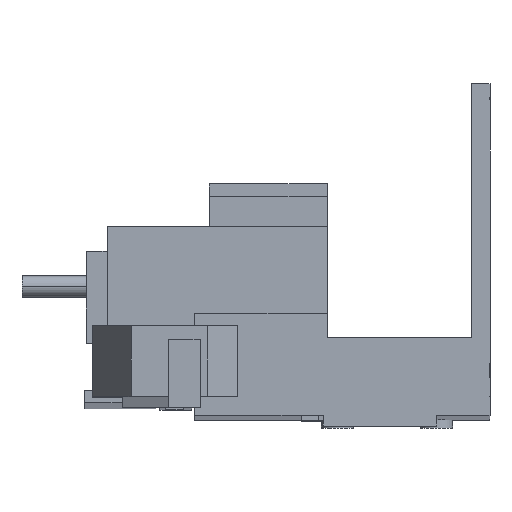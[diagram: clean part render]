
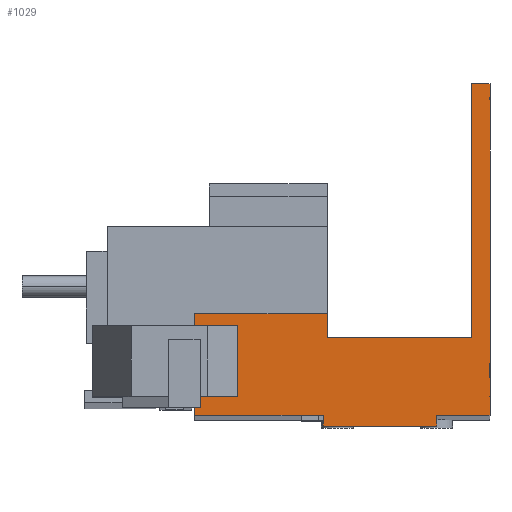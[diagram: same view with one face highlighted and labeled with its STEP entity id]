
A CAD part, front view. The second image highlights one B-rep face of the part: STEP entity #1029.
In plain terms, the highlighted planar face has unit normal (0, -1, 0.002).
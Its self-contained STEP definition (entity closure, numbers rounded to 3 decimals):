
#3 = LINE ( 'NONE', #4710, #153 ) ;
#7 = LINE ( 'NONE', #4774, #55 ) ;
#55 = VECTOR ( 'NONE', #4762, 1000. ) ;
#106 = CARTESIAN_POINT ( 'NONE',  ( 0., -32.978, 10.519 ) ) ;
#125 = CARTESIAN_POINT ( 'NONE',  ( -23.5, -33.076, -36.181 ) ) ;
#153 = VECTOR ( 'NONE', #4666, 1000. ) ;
#170 = CARTESIAN_POINT ( 'NONE',  ( -22.92, -33.046, -21.831 ) ) ;
#175 = CARTESIAN_POINT ( 'NONE',  ( -41.6, -33.076, -36.181 ) ) ;
#177 = CARTESIAN_POINT ( 'NONE',  ( -22.92, -33.053, -25.181 ) ) ;
#184 = CARTESIAN_POINT ( 'NONE',  ( -2.55, -32.978, 10.519 ) ) ;
#193 = CARTESIAN_POINT ( 'NONE',  ( -7.5, -33.079, -37.681 ) ) ;
#221 = CARTESIAN_POINT ( 'NONE',  ( -23.5, -33.079, -37.681 ) ) ;
#223 = CARTESIAN_POINT ( 'NONE',  ( -2.55, -33.053, -25.181 ) ) ;
#247 = CARTESIAN_POINT ( 'NONE',  ( -7.5, -33.076, -36.181 ) ) ;
#265 = CARTESIAN_POINT ( 'NONE',  ( 0., -33.076, -36.181 ) ) ;
#801 = CARTESIAN_POINT ( 'NONE',  ( -41.6, -33.046, -21.831 ) ) ;
#858 = VECTOR ( 'NONE', #4403, 1000. ) ;
#860 = VECTOR ( 'NONE', #4404, 1000. ) ;
#862 = VECTOR ( 'NONE', #4407, 1000. ) ;
#863 = LINE ( 'NONE', #4406, #860 ) ;
#864 = VECTOR ( 'NONE', #4410, 1000. ) ;
#865 = LINE ( 'NONE', #4409, #862 ) ;
#867 = LINE ( 'NONE', #4411, #864 ) ;
#874 = VECTOR ( 'NONE', #4423, 1000. ) ;
#877 = LINE ( 'NONE', #4424, #874 ) ;
#886 = LINE ( 'NONE', #4417, #858 ) ;
#887 = VECTOR ( 'NONE', #4488, 1000. ) ;
#890 = LINE ( 'NONE', #4507, #887 ) ;
#956 = FACE_OUTER_BOUND ( 'NONE', #5602, .T. ) ;
#1029 = ADVANCED_FACE ( 'NONE', ( #956 ), #3603, .F. ) ;
#1226 = DIRECTION ( 'NONE',  ( 0., -0.002, -1. ) ) ;
#1263 = CARTESIAN_POINT ( 'NONE',  ( -41.6, -33.076, -36.181 ) ) ;
#1967 = VECTOR ( 'NONE', #4810, 1000. ) ;
#1980 = LINE ( 'NONE', #4738, #1967 ) ;
#2130 = VECTOR ( 'NONE', #1226, 1000. ) ;
#2154 = LINE ( 'NONE', #1263, #2130 ) ;
#2257 = LINE ( 'NONE', #4799, #2263 ) ;
#2263 = VECTOR ( 'NONE', #4510, 1000. ) ;
#2281 = VECTOR ( 'NONE', #4811, 1000. ) ;
#2294 = LINE ( 'NONE', #4757, #2281 ) ;
#2340 = ORIENTED_EDGE ( 'NONE', *, *, #4034, .T. ) ;
#2349 = ORIENTED_EDGE ( 'NONE', *, *, #3989, .T. ) ;
#2354 = ORIENTED_EDGE ( 'NONE', *, *, #4274, .T. ) ;
#2367 = ORIENTED_EDGE ( 'NONE', *, *, #4032, .T. ) ;
#2373 = ORIENTED_EDGE ( 'NONE', *, *, #3953, .T. ) ;
#2387 = ORIENTED_EDGE ( 'NONE', *, *, #4095, .F. ) ;
#2402 = ORIENTED_EDGE ( 'NONE', *, *, #4096, .F. ) ;
#2446 = ORIENTED_EDGE ( 'NONE', *, *, #4097, .T. ) ;
#2467 = ORIENTED_EDGE ( 'NONE', *, *, #4044, .T. ) ;
#2468 = ORIENTED_EDGE ( 'NONE', *, *, #3956, .T. ) ;
#2542 = ORIENTED_EDGE ( 'NONE', *, *, #4089, .T. ) ;
#2647 = ORIENTED_EDGE ( 'NONE', *, *, #4094, .T. ) ;
#3603 = PLANE ( 'NONE',  #3877 ) ;
#3625 = DIRECTION ( 'NONE',  ( 0., 1., -0.002 ) ) ;
#3753 = DIRECTION ( 'NONE',  ( -1., 0., 0. ) ) ;
#3759 = CARTESIAN_POINT ( 'NONE',  ( 0., -33.076, -36.181 ) ) ;
#3877 = AXIS2_PLACEMENT_3D ( 'NONE', #3759, #3625, #3753 ) ;
#3953 = EDGE_CURVE ( 'NONE', #5457, #5807, #2294, .T. ) ;
#3956 = EDGE_CURVE ( 'NONE', #5307, #5287, #2257, .T. ) ;
#3989 = EDGE_CURVE ( 'NONE', #5845, #5441, #1980, .T. ) ;
#4032 = EDGE_CURVE ( 'NONE', #5287, #5845, #7, .T. ) ;
#4034 = EDGE_CURVE ( 'NONE', #5449, #5275, #3, .T. ) ;
#4044 = EDGE_CURVE ( 'NONE', #5443, #5449, #890, .T. ) ;
#4089 = EDGE_CURVE ( 'NONE', #5441, #5325, #877, .T. ) ;
#4094 = EDGE_CURVE ( 'NONE', #5325, #5443, #867, .T. ) ;
#4095 = EDGE_CURVE ( 'NONE', #5327, #5807, #865, .T. ) ;
#4096 = EDGE_CURVE ( 'NONE', #5714, #5327, #863, .T. ) ;
#4097 = EDGE_CURVE ( 'NONE', #5714, #5307, #886, .T. ) ;
#4274 = EDGE_CURVE ( 'NONE', #5275, #5457, #2154, .T. ) ;
#4403 = DIRECTION ( 'NONE',  ( 0., 0.002, 1. ) ) ;
#4404 = DIRECTION ( 'NONE',  ( -1., 0., 0. ) ) ;
#4406 = CARTESIAN_POINT ( 'NONE',  ( -7.5, -33.079, -37.681 ) ) ;
#4407 = DIRECTION ( 'NONE',  ( 0., 0.002, 1. ) ) ;
#4409 = CARTESIAN_POINT ( 'NONE',  ( -23.5, -33.079, -37.681 ) ) ;
#4410 = DIRECTION ( 'NONE',  ( -1., 0., 0. ) ) ;
#4411 = CARTESIAN_POINT ( 'NONE',  ( -2., -33.053, -25.181 ) ) ;
#4417 = CARTESIAN_POINT ( 'NONE',  ( -7.5, -33.079, -37.681 ) ) ;
#4423 = DIRECTION ( 'NONE',  ( 0., -0.002, -1. ) ) ;
#4424 = CARTESIAN_POINT ( 'NONE',  ( -2.55, -33.072, -34.53 ) ) ;
#4488 = DIRECTION ( 'NONE',  ( 0., 0.002, 1. ) ) ;
#4507 = CARTESIAN_POINT ( 'NONE',  ( -22.92, -33.046, -21.831 ) ) ;
#4510 = DIRECTION ( 'NONE',  ( 1., 0., 0. ) ) ;
#4666 = DIRECTION ( 'NONE',  ( -1., 0., 0. ) ) ;
#4710 = CARTESIAN_POINT ( 'NONE',  ( -41.6, -33.046, -21.831 ) ) ;
#4738 = CARTESIAN_POINT ( 'NONE',  ( -2.55, -32.978, 10.519 ) ) ;
#4757 = CARTESIAN_POINT ( 'NONE',  ( 0., -33.076, -36.181 ) ) ;
#4762 = DIRECTION ( 'NONE',  ( 0., 0.002, 1. ) ) ;
#4774 = CARTESIAN_POINT ( 'NONE',  ( 0., -32.978, 10.519 ) ) ;
#4799 = CARTESIAN_POINT ( 'NONE',  ( 0., -33.076, -36.181 ) ) ;
#4810 = DIRECTION ( 'NONE',  ( -1., 0., 0. ) ) ;
#4811 = DIRECTION ( 'NONE',  ( 1., 0., 0. ) ) ;
#5275 = VERTEX_POINT ( 'NONE', #801 ) ;
#5287 = VERTEX_POINT ( 'NONE', #265 ) ;
#5307 = VERTEX_POINT ( 'NONE', #247 ) ;
#5325 = VERTEX_POINT ( 'NONE', #223 ) ;
#5327 = VERTEX_POINT ( 'NONE', #221 ) ;
#5441 = VERTEX_POINT ( 'NONE', #184 ) ;
#5443 = VERTEX_POINT ( 'NONE', #177 ) ;
#5449 = VERTEX_POINT ( 'NONE', #170 ) ;
#5457 = VERTEX_POINT ( 'NONE', #175 ) ;
#5602 = EDGE_LOOP ( 'NONE', ( #2647, #2467, #2340, #2354, #2373, #2387, #2402, #2446, #2468, #2367, #2349, #2542 ) ) ;
#5714 = VERTEX_POINT ( 'NONE', #193 ) ;
#5807 = VERTEX_POINT ( 'NONE', #125 ) ;
#5845 = VERTEX_POINT ( 'NONE', #106 ) ;
